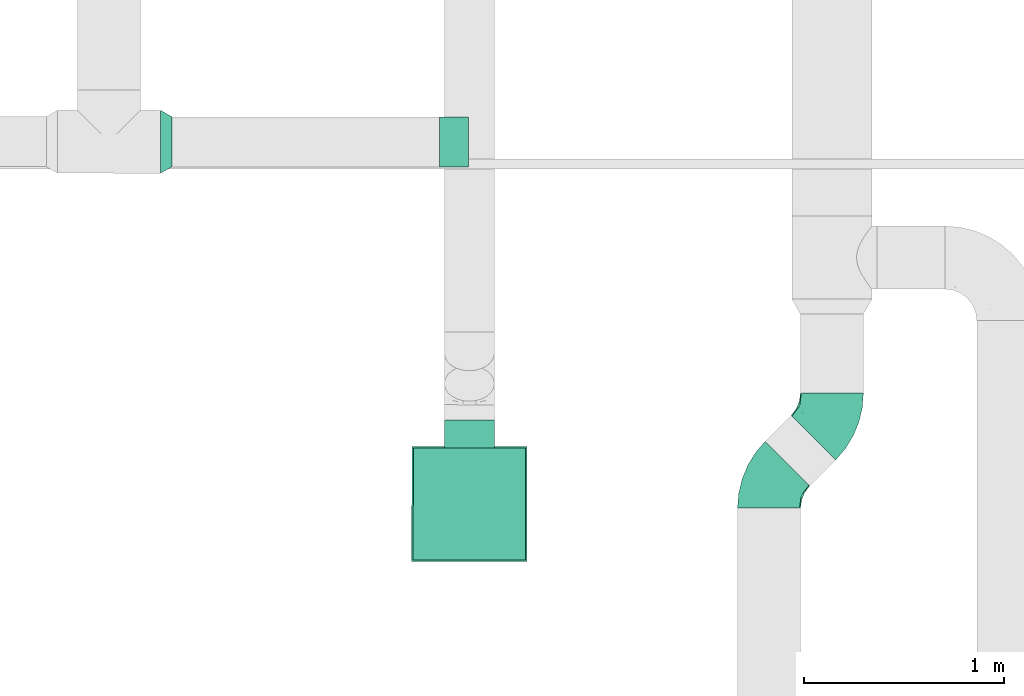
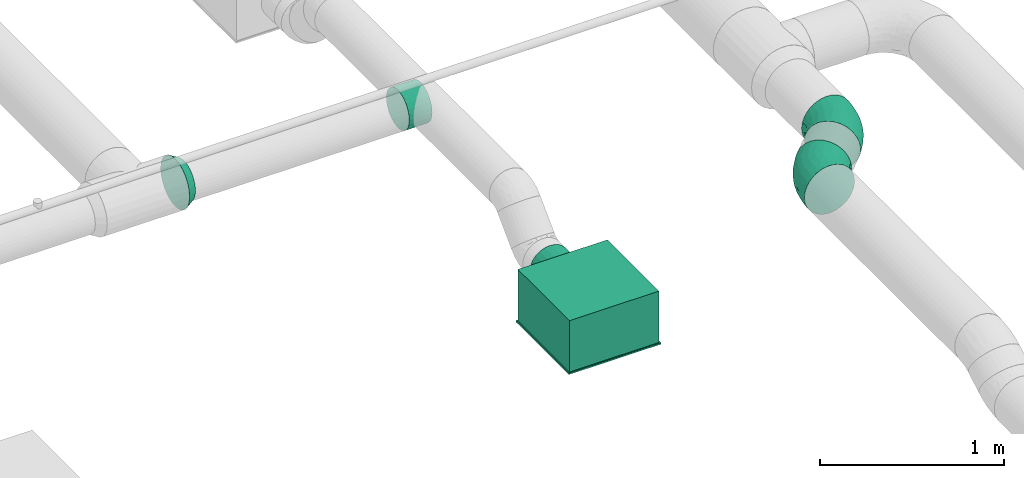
# One storey, part 21 of 63: 4 flow fittings, 1 flow terminal.
"""IFC2X3 building model written with IfcOpenShell, lengths in millimetres."""

from ifc_helpers import new_model, entity, si_unit, converted_unit, derived_unit, direction, frame, origin_with_axes, place, context, subcontext, project, spatial, open_shell, surface_model, source, transform, mapped, type_object, element, save


model = new_model("IFC2X3")

# Units and contexts
model_context = context("Model", 3, precision=0.01, world=frame((0.0, 4.29681676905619e-09, 0.0)), true_north=direction((4.01073788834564e-13, 1.0)))
plan_context = context("Plan", 3, precision=0.01, world=frame((0.0, 4.29681676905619e-09, 0.0)), true_north=direction((4.01073788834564e-13, 1.0)))
body_context = subcontext(model_context, "Body", "Model", "MODEL_VIEW")
ifc_project = project(units=[converted_unit("PLANEANGLEUNIT", "DEGREE", entity("IfcPositiveLengthMeasure", 0.0174532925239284), si_unit("PLANEANGLEUNIT", "RADIAN"), dimensions=[0, 0, 0, 0, 0, 0, 0]), si_unit("AREAUNIT", "SQUARE_METRE"), si_unit("LENGTHUNIT", "METRE", prefix="MILLI"), si_unit("MASSUNIT", "GRAM", prefix="KILO"), si_unit("POWERUNIT", "WATT"), si_unit("PRESSUREUNIT", "PASCAL"), si_unit("FORCEUNIT", "NEWTON", prefix="KILO"), si_unit("ELECTRICVOLTAGEUNIT", "VOLT"), si_unit("ELECTRICCURRENTUNIT", "AMPERE"), si_unit("THERMODYNAMICTEMPERATUREUNIT", "DEGREE_CELSIUS"), si_unit("TIMEUNIT", "SECOND"), si_unit("VOLUMEUNIT", "CUBIC_METRE"), derived_unit("LINEARVELOCITYUNIT", [(si_unit("LENGTHUNIT", "METRE"), 1), (si_unit("TIMEUNIT", "SECOND"), -1)]), derived_unit("VOLUMETRICFLOWRATEUNIT", [(si_unit("VOLUMEUNIT", "CUBIC_METRE"), 1), (si_unit("TIMEUNIT", "SECOND"), -1)]), derived_unit("THERMALTRANSMITTANCEUNIT", [(si_unit("POWERUNIT", "WATT"), 1), (si_unit("THERMODYNAMICTEMPERATUREUNIT", "KELVIN"), -1), (si_unit("AREAUNIT", "SQUARE_METRE"), -1)]), derived_unit("SOUNDPRESSUREUNIT", [(si_unit("PRESSUREUNIT", "PASCAL"), 1)])], contexts=[model_context, plan_context])

# Site, building, storey
site_placement = place(None, frame((0.0, -4.29681676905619e-09, 0.0), z_axis=(0.0, 0.0, 1.0), x_axis=(1.0, 0.0, 0.0)))
site = spatial("IfcSite", under=ifc_project, at=site_placement, CompositionType="ELEMENT")
building_placement = place(site_placement, frame((0.0, 4.29681676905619e-09, 0.0), z_axis=(0.0, 0.0, 1.0), x_axis=(1.0, 0.0, 0.0)))
building = spatial("IfcBuilding", under=site, at=building_placement, Name="mc-building", CompositionType="ELEMENT")
storey_placement = place(building_placement, frame((0.0, 0.0, 210900.0), z_axis=(0.0, 0.0, 1.0), x_axis=(1.0, 0.0, 0.0)))
storey = spatial("IfcBuildingStorey", under=building, at=storey_placement, Name="Nivå F", CompositionType="ELEMENT", Elevation=210900.0)

# Flow fittings
duct_fitting_type_1 = type_object("IfcDuctFittingType", Name="magicirc_reduction_001", PredefinedType="TRANSITION")
shared_shape_1 = source(origin_with_axes(), body_context, "Body", "SurfaceModel", [
    surface_model("IfcShellBasedSurfaceModel", [(0.0, 78.75, 136.39901), (0.0, 157.5, 0.0), (0.0, 40.764, 152.13332), (0.0, -78.75, 136.39901), (0.0, -152.13332, -40.764), (0.0, -111.36932, 111.36932), (0.0, -136.39901, 78.75), (0.0, -152.13332, 40.764), (0.0, -157.5, 0.0), (0.0, 152.13332, -40.764), (0.0, 136.39901, -78.75), (0.0, 0.0, -157.5), (0.0, 111.36932, -111.36932), (0.0, 78.75, -136.39901), (0.0, 40.764, -152.13332), (0.0, -136.39901, -78.75), (0.0, -78.75, -136.39901), (0.0, -111.36932, -111.36932), (0.0, -40.764, -152.13332), (0.0, 0.0, 157.5), (56.29165, 38.62713, 118.88206), (56.29165, -38.62713, 118.88206), (56.29165, -73.47315, 101.12712), (56.29165, -101.12712, 73.47315), (56.29165, -118.88206, 38.62713), (56.29165, -125.0, 0.0), (56.29165, 0.0, 125.0), (56.29165, 118.88206, -38.62713), (56.29165, 73.47315, 101.12712), (56.29165, 101.12712, 73.47315), (56.29165, 118.88206, 38.62713), (56.29165, -118.88206, -38.62713), (56.29165, -101.12712, -73.47315), (56.29165, 0.0, -125.0), (56.29165, -73.47315, -101.12712), (56.29165, -38.62713, -118.88206), (56.29165, 125.0, 0.0), (56.29165, 73.47315, -101.12712), (56.29165, 101.12712, -73.47315), (56.29165, 38.62713, -118.88206), (0.0, 136.39901, 78.75), (0.0, 111.36932, 111.36932), (0.0, -40.764, 152.13332), (0.0, 152.13332, 40.764)], [open_shell([[[0, 1, 2]], [[3, 4, 5]], [[6, 5, 4]], [[6, 4, 7]], [[7, 4, 8]], [[1, 9, 10]], [[11, 12, 13]], [[14, 11, 13]], [[15, 16, 17]], [[16, 11, 18]], [[1, 4, 19]], [[20, 21, 22]], [[23, 24, 25]], [[23, 25, 22]], [[20, 22, 25]], [[26, 21, 20]], [[20, 27, 28]], [[28, 27, 29]], [[27, 30, 29]], [[25, 27, 20]], [[31, 32, 33]], [[34, 35, 33]], [[34, 33, 32]], [[33, 27, 25]], [[30, 27, 36]], [[33, 37, 38]], [[38, 27, 33]], [[37, 33, 39]], [[25, 31, 33]], [[1, 19, 2]], [[40, 1, 41]], [[41, 1, 0]], [[5, 19, 4]], [[19, 5, 3]], [[3, 42, 19]], [[5, 4, 6]], [[8, 7, 4]], [[1, 40, 43]], [[1, 10, 14]], [[13, 14, 10]], [[13, 10, 12]], [[1, 14, 4]], [[14, 17, 15]], [[15, 4, 14]], [[14, 16, 17]], [[18, 16, 14]], [[11, 18, 14]], [[35, 34, 16]], [[33, 35, 18]], [[18, 11, 33]], [[16, 18, 35]], [[34, 17, 16]], [[31, 25, 4]], [[32, 31, 15]], [[15, 17, 32]], [[4, 15, 31]], [[25, 8, 4]], [[32, 17, 34]], [[27, 38, 10]], [[36, 27, 9]], [[9, 1, 36]], [[10, 9, 27]], [[38, 12, 10]], [[39, 33, 14]], [[37, 39, 13]], [[13, 12, 37]], [[14, 13, 39]], [[33, 11, 14]], [[37, 12, 38]], [[20, 28, 0]], [[26, 20, 2]], [[2, 19, 26]], [[0, 2, 20]], [[28, 41, 0]], [[30, 36, 43]], [[29, 30, 40]], [[40, 41, 29]], [[43, 40, 30]], [[36, 1, 43]], [[29, 41, 28]], [[24, 23, 6]], [[25, 24, 7]], [[7, 8, 25]], [[6, 7, 24]], [[23, 5, 6]], [[21, 26, 42]], [[22, 21, 3]], [[3, 5, 22]], [[42, 3, 21]], [[26, 19, 42]], [[22, 5, 23]], [[42, 19, 2]], [[0, 42, 2]], [[0, 41, 1]], [[0, 1, 42]], [[42, 4, 3]], [[11, 1, 9]], [[10, 11, 9]], [[12, 11, 10]], [[11, 15, 4]], [[11, 16, 15]], [[4, 1, 11]], [[1, 4, 42]], [[21, 22, 25]], [[21, 25, 26]], [[20, 26, 28]], [[26, 29, 28]], [[30, 29, 27]], [[27, 29, 26]], [[26, 25, 35]], [[31, 32, 34]], [[35, 27, 26]], [[35, 31, 34]], [[39, 35, 33]], [[35, 38, 27]], [[35, 37, 38]], [[39, 37, 35]], [[25, 31, 35]], [[25, 7, 8]], [[7, 24, 6]], [[19, 42, 26]], [[3, 21, 42]], [[26, 2, 19]], [[2, 20, 0]], [[1, 43, 36]], [[40, 30, 43]], [[36, 9, 1]], [[9, 27, 10]], [[11, 14, 33]], [[13, 39, 14]], [[33, 18, 11]], [[18, 35, 16]], [[8, 4, 25]], [[15, 31, 4]], [[26, 21, 22]], [[26, 23, 20]], [[23, 26, 22]], [[23, 27, 29]], [[28, 20, 29]], [[29, 36, 30]], [[29, 20, 23]], [[29, 27, 36]], [[23, 31, 27]], [[32, 34, 35]], [[27, 31, 32]], [[33, 32, 35]], [[38, 27, 37]], [[33, 37, 27]], [[27, 32, 33]], [[31, 23, 25]], [[41, 19, 2]], [[41, 2, 0]], [[19, 40, 4]], [[40, 19, 41]], [[7, 19, 4]], [[42, 5, 3]], [[42, 19, 5]], [[5, 7, 6]], [[19, 7, 5]], [[43, 10, 40]], [[9, 10, 43]], [[40, 10, 4]], [[4, 10, 13]], [[18, 13, 14]], [[4, 17, 15]], [[17, 4, 16]], [[13, 18, 16]], [[16, 4, 13]], [[43, 1, 9]], [[13, 37, 39]], [[38, 37, 12]], [[33, 14, 39]], [[27, 10, 9]], [[37, 13, 12]], [[11, 33, 18]], [[18, 33, 35]], [[34, 16, 35]], [[15, 32, 31]], [[17, 34, 32]], [[4, 31, 25]], [[17, 32, 15]], [[31, 4, 15]], [[3, 22, 21]], [[23, 22, 5]], [[26, 42, 21]], [[24, 6, 7]], [[22, 3, 5]], [[19, 26, 2]], [[2, 26, 20]], [[28, 0, 20]], [[40, 29, 30]], [[41, 28, 29]], [[43, 30, 36]], [[41, 29, 40]], [[30, 43, 40]]])]),
])
flow_fitting_1_placement = place(storey_placement, frame((525358.20022, 452593.68837, 4200.0), z_axis=(0.0, 0.0, 1.0), x_axis=(0.999999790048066, -0.000647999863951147, 0.0)))
element("IfcFlowFitting", 1, at=flow_fitting_1_placement, inside=storey, type_object=duct_fitting_type_1, Name="magicirc_reduction_001", context=body_context, shape_type="MappedRepresentation", body=[
    mapped(shared_shape_1, transform((0.0, 0.0, 0.0), scale=1.0)),
])
duct_fitting_type_2 = type_object("IfcDuctFittingType", Name="magicirc_tapoutlet_001", PredefinedType="CONNECTOR")
shared_shape_2 = source(origin_with_axes(), body_context, "Body", "SurfaceModel", [
    surface_model("IfcShellBasedSurfaceModel", [(-118.904, 88.38835, -88.38835), (-118.904, 120.74073, 32.35238), (-118.904, 108.25318, -62.5), (-118.904, -88.38835, -88.38835), (-118.904, -125.0, 0.0), (-118.904, -62.5, -108.25318), (-118.904, -120.74073, -32.35238), (-118.904, -108.25318, -62.5), (0.0, 125.0, 0.0), (0.0, 120.74073, -32.35238), (-118.904, 125.0, 0.0), (0.0, -120.74073, -32.35238), (0.0, -125.0, 0.0), (-118.904, -32.35238, -120.74073), (-118.904, 0.0, -125.0), (-118.904, 62.5, -108.25318), (-118.904, 32.35238, -120.74073), (-118.904, 120.74073, -32.35238), (-118.904, -120.74073, 32.35238), (-118.904, -108.25318, 62.5), (-118.904, -62.5, 108.25318), (-118.904, -32.35238, 120.74073), (-118.904, -88.38835, 88.38835), (-118.904, 62.5, 108.25318), (-118.904, 108.25318, 62.5), (-118.904, 88.38835, 88.38835), (-118.904, 32.35238, 120.74073), (-118.904, 0.0, 125.0), (0.0, -32.35238, 120.74073), (0.0, 0.0, 125.0), (0.0, -62.5, 108.25318), (0.0, -88.38835, 88.38835), (0.0, -120.74073, 32.35238), (0.0, -108.25318, 62.5), (0.0, -108.25318, -62.5), (0.0, -88.38835, -88.38835), (0.0, -32.35238, -120.74073), (0.0, -62.5, -108.25318), (0.0, 0.0, -125.0), (0.0, 32.35238, -120.74073), (0.0, 62.5, -108.25318), (0.0, 88.38835, -88.38835), (0.0, 108.25318, -62.5), (0.0, 120.74073, 32.35238), (0.0, 108.25318, 62.5), (0.0, 88.38835, 88.38835), (0.0, 32.35238, 120.74073), (0.0, 62.5, 108.25318), (25.0, -88.38835, -88.38835), (25.0, -120.74073, 32.35238), (25.0, -108.25318, -62.5), (25.0, 32.35238, -120.74073), (25.0, 0.0, -125.0), (25.0, 62.5, -108.25318), (25.0, -32.35238, -120.74073), (25.0, -62.5, -108.25318), (25.0, -125.0, 0.0), (25.0, -120.74073, -32.35238), (25.0, 88.38835, -88.38835), (25.0, 108.25318, -62.5), (25.0, 125.0, 0.0), (25.0, 120.74073, 32.35238), (25.0, 120.74073, -32.35238), (25.0, -108.25318, 62.5), (25.0, -62.5, 108.25318), (25.0, -32.35238, 120.74073), (25.0, -88.38835, 88.38835), (25.0, 0.0, 125.0), (25.0, 108.25318, 62.5), (25.0, 88.38835, 88.38835), (25.0, 32.35238, 120.74073), (25.0, 62.5, 108.25318)], [open_shell([[[0, 1, 2]], [[3, 4, 5]], [[6, 4, 7]], [[3, 7, 4]], [[8, 9, 10]], [[4, 11, 12]], [[13, 4, 14]], [[5, 4, 13]], [[0, 14, 1]], [[14, 15, 16]], [[14, 0, 15]], [[2, 1, 17]], [[2, 0, 1]], [[1, 10, 17]], [[4, 7, 6]], [[18, 19, 14]], [[14, 19, 20]], [[21, 14, 20]], [[20, 19, 22]], [[14, 21, 23]], [[14, 24, 1]], [[25, 24, 14]], [[25, 14, 23]], [[21, 26, 23]], [[21, 27, 26]], [[4, 18, 14]], [[28, 29, 21]], [[30, 28, 20]], [[21, 29, 27]], [[20, 28, 21]], [[20, 22, 30]], [[22, 31, 30]], [[32, 33, 18]], [[12, 32, 4]], [[22, 19, 31]], [[19, 33, 31]], [[18, 33, 19]], [[18, 4, 32]], [[7, 34, 11]], [[6, 11, 4]], [[34, 7, 3]], [[6, 7, 11]], [[3, 35, 34]], [[36, 37, 13]], [[38, 36, 14]], [[3, 5, 35]], [[5, 37, 35]], [[13, 37, 5]], [[13, 14, 36]], [[39, 38, 16]], [[40, 39, 15]], [[16, 38, 14]], [[15, 39, 16]], [[15, 0, 40]], [[0, 41, 40]], [[9, 42, 17]], [[0, 2, 41]], [[2, 42, 41]], [[17, 42, 2]], [[17, 10, 9]], [[43, 8, 1]], [[44, 43, 24]], [[1, 8, 10]], [[24, 43, 1]], [[24, 25, 44]], [[25, 45, 44]], [[46, 47, 26]], [[29, 46, 27]], [[25, 23, 45]], [[23, 47, 45]], [[26, 47, 23]], [[26, 27, 46]], [[7, 4, 3]], [[15, 16, 14]], [[19, 14, 18]], [[19, 22, 14]], [[14, 22, 20]], [[14, 23, 25]], [[27, 26, 21]], [[14, 4, 18]], [[48, 49, 50]], [[51, 52, 38]], [[53, 51, 39]], [[53, 39, 40]], [[38, 52, 54]], [[36, 54, 55]], [[37, 36, 55]], [[56, 57, 49]], [[58, 59, 60]], [[58, 60, 53]], [[52, 51, 54]], [[54, 49, 55]], [[55, 49, 48]], [[54, 60, 61]], [[54, 51, 53]], [[62, 60, 59]], [[53, 60, 54]], [[57, 50, 49]], [[63, 49, 54]], [[64, 63, 54]], [[64, 54, 65]], [[66, 63, 64]], [[67, 65, 54]], [[61, 68, 54]], [[68, 69, 54]], [[70, 67, 71]], [[69, 71, 67]], [[54, 69, 67]], [[65, 67, 29]], [[64, 65, 28]], [[28, 65, 29]], [[31, 66, 30]], [[64, 28, 30]], [[64, 30, 66]], [[49, 63, 33]], [[56, 49, 32]], [[33, 63, 31]], [[49, 33, 32]], [[56, 32, 12]], [[66, 31, 63]], [[57, 56, 12]], [[50, 57, 11]], [[11, 57, 12]], [[35, 48, 34]], [[50, 11, 34]], [[50, 34, 48]], [[37, 55, 35]], [[54, 36, 38]], [[48, 35, 55]], [[39, 51, 38]], [[41, 58, 40]], [[53, 40, 58]], [[62, 59, 42]], [[60, 62, 9]], [[42, 59, 41]], [[62, 42, 9]], [[60, 9, 8]], [[58, 41, 59]], [[61, 60, 8]], [[68, 61, 43]], [[43, 61, 8]], [[45, 69, 44]], [[68, 43, 44]], [[68, 44, 69]], [[70, 71, 47]], [[67, 70, 46]], [[47, 71, 45]], [[70, 47, 46]], [[67, 46, 29]], [[69, 45, 71]], [[66, 63, 54]], [[54, 65, 64]], [[64, 66, 54]], [[54, 69, 71]], [[67, 54, 71]]])]),
])
flow_fitting_2_placement = place(storey_placement, frame((526777.10326, 452592.76929, 4200.0), z_axis=(0.0, 0.0, -1.0), x_axis=(-0.999999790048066, 0.000647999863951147, 0.0)))
element("IfcFlowFitting", 2, at=flow_fitting_2_placement, inside=storey, type_object=duct_fitting_type_2, Name="magicirc_tapoutlet_001", context=body_context, shape_type="MappedRepresentation", body=[
    mapped(shared_shape_2, transform((0.0, 0.0, 0.0), scale=1.0)),
])
duct_fitting_type_3 = type_object("IfcDuctFittingType", Name="magicirc_elbow_full_radius_001", PredefinedType="BEND")
shared_shape_3 = source(origin_with_axes(), body_context, "Body", "SurfaceModel", [
    surface_model("IfcShellBasedSurfaceModel", [(-130.47727, 78.75, -136.39901), (-130.47727, 40.764, -152.13332), (-130.47727, 0.0, -157.5), (-130.47727, 136.39901, -78.75), (-130.47727, -40.764, -152.13332), (-130.47727, 111.36932, -111.36932), (-130.47727, -157.5, 0.0), (-130.47727, -152.13332, 40.764), (-130.47727, -111.36932, -111.36932), (-130.47727, -152.13332, -40.764), (-130.47727, -78.75, -136.39901), (-130.47727, -136.39901, -78.75), (-130.47727, 152.13332, -40.764), (-130.47727, 157.5, 0.0), (-130.47727, 152.13332, 40.764), (-130.47727, 136.39901, 78.75), (-130.47727, 111.36932, 111.36932), (-130.47727, 78.75, 136.39901), (-130.47727, 40.764, 152.13332), (-130.47727, -111.36932, 111.36932), (-130.47727, -78.75, 136.39901), (-130.47727, -136.39901, 78.75), (-130.47727, 0.0, 157.5), (-130.47727, -40.764, 152.13332), (92.26137, 92.26137, -157.5), (63.43686, 121.08587, -152.13332), (36.57671, 147.94602, -136.39901), (121.08587, 63.43686, -152.13332), (-4.18729, 188.71003, -78.75), (13.51136, 171.01136, -111.36932), (13.51136, 171.01136, 111.36932), (203.63068, -19.10795, 0.0), (171.01136, 13.51136, -111.36932), (147.94602, 36.57671, -136.39901), (199.83586, -15.31314, -40.764), (188.71003, -4.18729, -78.75), (-15.31314, 199.83586, -40.764), (-19.10795, 203.63068, 0.0), (-15.31314, 199.83586, 40.764), (-4.18729, 188.71003, 78.75), (199.83586, -15.31314, 40.764), (36.57671, 147.94602, 136.39901), (63.43686, 121.08587, 152.13332), (188.71003, -4.18729, 78.75), (147.94602, 36.57671, 136.39901), (171.01136, 13.51136, 111.36932), (92.26137, 92.26137, 157.5), (121.08587, 63.43686, 152.13332), (-90.31824, -62.89797, 143.44996), (-72.27875, -23.25773, 154.94979), (-56.56199, -151.68274, 0.0), (-70.62575, -144.42219, 53.02885), (-91.264, -154.41385, 0.0), (-89.63351, -126.15228, 91.7184), (-69.33391, -97.41309, 120.07653), (-16.38997, -97.78481, 109.44527), (-40.47078, -60.22037, 140.65724), (-39.28412, -122.29161, 86.38044), (152.5836, -25.82267, 91.71841), (-81.87175, 17.75633, 156.89351), (67.55449, 34.66309, 154.94979), (45.33645, 70.44769, 156.89351), (19.44546, -106.17047, 85.82993), (-9.83286, -133.58825, 49.47276), (46.24417, -111.64335, 57.07322), (101.41402, -87.50829, 49.47275), (152.06186, -52.18197, 53.02885), (114.25128, -58.69516, 86.38044), (-3.65855, 130.02911, 128.74157), (-83.53697, 125.9293, 101.78766), (-89.35748, 94.53145, 128.74157), (-72.45165, 58.76305, 148.57173), (-42.27491, 102.06066, 132.90326), (-34.80211, 144.57687, 102.52932), (71.19939, -13.96507, 140.65724), (20.14269, -6.20589, 152.39698), (-29.92035, 72.23411, 148.58687), (9.6793, 92.78281, 148.57173), (-66.76397, 161.18248, 52.45275), (-89.71327, 162.86668, 0.0), (-51.72727, 178.601, 0.0), (115.64225, -86.63056, 0.0), (49.78325, -120.1874, 0.0), (84.03324, -106.00058, 0.0), (66.8953, -111.32944, 29.0342), (66.95497, -86.10086, 85.82994), (108.34022, 19.38906, 143.44996), (21.01822, -47.55911, 136.8648), (32.83795, -79.27786, 110.97397), (80.23571, -55.72758, 111.31288), (-99.24246, 146.38754, 64.87357), (173.72046, -44.65369, 0.0), (117.90794, -19.85497, 120.07653), (-11.3948, 27.50947, 157.45362), (-66.77072, 146.456, 81.42725), (-35.48483, 168.38694, 71.56288), (-24.4967, -27.0546, 151.48903), (-44.47795, 2.85402, 157.2553), (29.43256, 33.46875, 157.2553), (26.71905, -127.11627, 31.92385), (-20.51436, -143.02847, 0.0), (147.25126, -67.26053, 0.0), (15.53326, -134.3742, 0.0), (-89.35749, 94.53145, -128.74157), (31.41968, -126.02392, -29.0342), (13.53818, -108.22682, -85.82992), (-17.32987, -96.14058, -111.31287), (32.83796, -79.27786, -110.97396), (108.34022, 19.38906, -143.44996), (67.55449, 34.66308, -154.94979), (-72.45166, 58.76305, -148.57173), (9.67929, 92.78279, -148.57174), (-81.87176, 17.75632, -156.89351), (-66.76398, 161.18248, -52.45275), (-93.97599, 144.15911, -71.56287), (-77.62248, 126.84009, -102.52932), (-42.27492, 102.06066, -132.90325), (-40.47078, -60.22037, -140.65723), (-72.27875, -23.25774, -154.94979), (-9.85481, -18.63127, -152.39698), (-70.62574, -144.42219, -53.02885), (-89.63351, -126.15228, -91.7184), (-29.92036, 72.23411, -148.58687), (-44.47795, 2.85401, -157.2553), (-69.33391, -97.41309, -120.07653), (46.24419, -111.64335, -57.07321), (61.32383, -88.82388, -85.82992), (-90.31824, -62.89797, -143.44996), (152.06185, -52.18197, -53.02885), (101.41403, -87.50828, -49.47276), (114.25129, -58.69516, -86.38043), (18.76725, -48.49151, -136.86479), (-56.34601, 150.77405, -81.42725), (117.90794, -19.85498, -120.07653), (71.19939, -13.96508, -140.65723), (-9.83285, -133.58825, -49.47276), (-39.28411, -122.29161, -86.38043), (-29.97591, 148.11501, -101.78766), (-33.33661, 173.68664, -64.87357), (-3.65856, 130.02911, -128.74157), (152.5836, -25.82267, -91.7184), (45.33645, 70.44768, -156.89351), (80.73375, -57.55486, -109.44526), (-11.3948, 27.50946, -157.45362), (36.45227, -1.80872, -151.48903), (29.43256, 33.46875, -157.2553), (70.99154, -108.778, -31.92385)], [open_shell([[[0, 1, 2]], [[3, 0, 2]], [[4, 3, 2]], [[5, 0, 3]], [[3, 6, 7]], [[8, 9, 10]], [[4, 10, 6]], [[11, 9, 8]], [[6, 10, 9]], [[6, 3, 4]], [[7, 12, 3]], [[13, 7, 14]], [[15, 14, 16]], [[17, 16, 7]], [[7, 16, 14]], [[7, 18, 17]], [[19, 20, 21]], [[7, 21, 22]], [[23, 22, 20]], [[21, 20, 22]], [[22, 18, 7]], [[12, 7, 13]], [[24, 25, 26]], [[27, 24, 26]], [[26, 28, 27]], [[28, 26, 29]], [[28, 30, 31]], [[27, 32, 33]], [[32, 27, 34]], [[32, 34, 35]], [[34, 27, 31]], [[27, 28, 31]], [[28, 36, 37]], [[28, 38, 30]], [[30, 38, 39]], [[40, 30, 41]], [[30, 40, 31]], [[41, 42, 43]], [[43, 44, 45]], [[43, 40, 41]], [[44, 46, 47]], [[46, 44, 43]], [[42, 46, 43]], [[38, 28, 37]], [[48, 49, 23]], [[50, 51, 52]], [[19, 21, 53]], [[54, 55, 56]], [[53, 51, 57]], [[45, 58, 43]], [[54, 20, 19]], [[59, 22, 49]], [[60, 46, 61]], [[19, 53, 54]], [[23, 20, 48]], [[62, 63, 64]], [[65, 66, 67]], [[41, 30, 68]], [[16, 69, 15]], [[70, 71, 72]], [[21, 7, 51]], [[69, 72, 73]], [[18, 22, 59]], [[74, 60, 75]], [[72, 76, 77]], [[14, 78, 79]], [[76, 72, 71]], [[79, 13, 14]], [[80, 78, 38]], [[46, 42, 61]], [[70, 16, 17]], [[66, 65, 81]], [[82, 83, 84]], [[64, 85, 62]], [[47, 86, 44]], [[23, 49, 22]], [[87, 74, 75]], [[86, 60, 74]], [[43, 66, 40]], [[88, 85, 89]], [[14, 15, 90]], [[66, 91, 40]], [[17, 18, 71]], [[44, 92, 45]], [[60, 47, 46]], [[66, 43, 58]], [[85, 88, 62]], [[51, 63, 57]], [[59, 93, 71]], [[79, 78, 80]], [[78, 94, 95]], [[37, 80, 38]], [[49, 96, 97]], [[38, 78, 95]], [[90, 69, 94]], [[39, 73, 30]], [[48, 54, 56]], [[68, 73, 72]], [[98, 60, 61]], [[77, 42, 41]], [[41, 68, 77]], [[55, 57, 62]], [[51, 7, 52]], [[92, 67, 58]], [[99, 63, 100]], [[60, 98, 75]], [[86, 92, 44]], [[74, 87, 89]], [[85, 65, 67]], [[71, 93, 76]], [[69, 16, 70]], [[90, 94, 78]], [[42, 77, 61]], [[93, 61, 77]], [[97, 59, 49]], [[71, 18, 59]], [[75, 93, 97]], [[87, 88, 89]], [[71, 70, 17]], [[69, 70, 72]], [[73, 68, 30]], [[77, 68, 72]], [[65, 83, 81]], [[99, 84, 64]], [[82, 84, 99]], [[84, 83, 65]], [[96, 87, 75]], [[55, 87, 56]], [[60, 86, 47]], [[92, 86, 74]], [[54, 48, 20]], [[49, 48, 56]], [[51, 53, 21]], [[54, 53, 57]], [[92, 58, 45]], [[66, 58, 67]], [[69, 90, 15]], [[78, 14, 90]], [[69, 73, 94]], [[95, 73, 39]], [[73, 95, 94]], [[38, 95, 39]], [[7, 6, 52]], [[91, 66, 101]], [[91, 31, 40]], [[93, 77, 76]], [[63, 99, 64]], [[101, 66, 81]], [[65, 64, 84]], [[51, 100, 63]], [[82, 99, 102]], [[65, 85, 64]], [[89, 67, 92]], [[67, 89, 85]], [[74, 89, 92]], [[55, 62, 88]], [[63, 62, 57]], [[55, 88, 87]], [[54, 57, 55]], [[61, 93, 98]], [[75, 98, 93]], [[49, 56, 96]], [[93, 59, 97]], [[87, 96, 56]], [[75, 97, 96]], [[100, 51, 50]], [[102, 99, 100]], [[103, 0, 5]], [[104, 82, 102]], [[105, 106, 107]], [[108, 109, 27]], [[0, 103, 110]], [[26, 25, 111]], [[13, 79, 12]], [[2, 1, 112]], [[12, 79, 113]], [[12, 113, 114]], [[115, 116, 103]], [[27, 109, 24]], [[117, 118, 119]], [[1, 0, 110]], [[120, 11, 121]], [[116, 122, 110]], [[120, 52, 9]], [[118, 123, 119]], [[124, 8, 10]], [[125, 105, 126]], [[127, 10, 4]], [[128, 129, 130]], [[117, 131, 106]], [[120, 9, 11]], [[118, 117, 127]], [[8, 121, 11]], [[113, 132, 114]], [[122, 116, 111]], [[79, 80, 113]], [[108, 133, 134]], [[80, 37, 36]], [[135, 120, 136]], [[29, 137, 28]], [[28, 138, 36]], [[118, 4, 2]], [[115, 137, 116]], [[139, 29, 26]], [[140, 32, 35]], [[112, 118, 2]], [[25, 24, 141]], [[3, 115, 5]], [[111, 116, 139]], [[35, 34, 128]], [[108, 27, 33]], [[133, 33, 32]], [[131, 117, 119]], [[138, 137, 132]], [[129, 125, 126]], [[10, 127, 124]], [[32, 140, 133]], [[130, 140, 128]], [[141, 24, 109]], [[128, 91, 101]], [[121, 124, 136]], [[123, 118, 112]], [[134, 133, 142]], [[120, 135, 100]], [[105, 107, 126]], [[141, 143, 111]], [[113, 80, 36]], [[142, 130, 126]], [[109, 144, 145]], [[128, 34, 91]], [[146, 129, 81]], [[105, 135, 136]], [[34, 31, 91]], [[137, 29, 139]], [[138, 132, 113]], [[1, 110, 112]], [[143, 112, 110]], [[145, 141, 109]], [[111, 25, 141]], [[119, 143, 145]], [[131, 107, 106]], [[115, 103, 5]], [[110, 103, 116]], [[111, 139, 26]], [[137, 139, 116]], [[135, 102, 100]], [[146, 104, 125]], [[82, 104, 146]], [[104, 102, 135]], [[144, 131, 119]], [[142, 131, 134]], [[118, 127, 4]], [[124, 127, 117]], [[133, 108, 33]], [[109, 108, 134]], [[128, 140, 35]], [[133, 140, 130]], [[124, 121, 8]], [[120, 121, 136]], [[137, 138, 28]], [[113, 36, 138]], [[137, 115, 132]], [[114, 115, 3]], [[115, 114, 132]], [[12, 114, 3]], [[52, 120, 50]], [[52, 6, 9]], [[111, 143, 122]], [[143, 110, 122]], [[104, 135, 125]], [[120, 100, 50]], [[125, 129, 146]], [[128, 81, 129]], [[82, 146, 83]], [[135, 105, 125]], [[106, 136, 124]], [[136, 106, 105]], [[117, 106, 124]], [[142, 126, 107]], [[129, 126, 130]], [[142, 107, 131]], [[133, 130, 142]], [[112, 143, 123]], [[119, 123, 143]], [[109, 134, 144]], [[143, 141, 145]], [[131, 144, 134]], [[119, 145, 144]], [[81, 128, 101]], [[83, 146, 81]]])]),
])
for number, where, z_axis, x_axis, name in (
    (3, (528713.30719, 451207.18542, 4200.0), (0.0, 0.0, 1.0), (0.707106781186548, 0.707106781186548, 0.0), "magicirc_elbow_full_radius_001"),
    (4, (528399.04312, 450892.92136, 4200.0), (0.0, 0.0, 1.0), (-0.707106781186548, -0.707106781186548, 0.0), "magicirc_elbow_full_radius_001"),
):
    element("IfcFlowFitting", number, at=place(storey_placement, frame(where, z_axis=z_axis, x_axis=x_axis)), inside=storey, type_object=duct_fitting_type_3, Name=name, context=body_context, shape_type="MappedRepresentation", body=[
        mapped(shared_shape_3, transform((0.0, 0.0, 0.0), scale=1.0)),
    ])

# Flow terminal
air_terminal_type = type_object("IfcAirTerminalType", Name="NS19-H-S-2-250 - 4-way", PredefinedType="NOTDEFINED")
shared_shape_4 = source(origin_with_axes(), body_context, "Body", "SurfaceModel", [
    surface_model("IfcShellBasedSurfaceModel", [(-287.5, 287.5, 0.0), (-287.5, -287.5, 0.0), (287.5, -287.5, 0.0), (287.5, 287.5, 0.0), (287.5, 287.5, -10.0), (287.5, -287.5, -10.0), (-287.5, -287.5, -10.0), (-287.5, 287.5, -10.0), (-280.0, 280.0, 340.0), (-280.0, -280.0, 340.0), (280.0, -280.0, 340.0), (280.0, 280.0, 340.0), (280.0, 280.0, 0.0), (280.0, -280.0, 0.0), (-280.0, -280.0, 0.0), (-280.0, 280.0, 0.0), (-280.0, 62.5, 81.74683), (-280.0, 88.38835, 101.61165), (-280.0, 62.4, 81.92003), (-280.0, 32.30062, 69.45246), (-280.0, 0.0, 65.2), (-280.0, 32.35238, 69.25927), (-280.0, 0.0, 65.0), (-280.0, 88.24693, 101.75307), (-280.0, 120.74073, 157.64763), (-280.0, 124.8, 189.99999), (-280.0, 120.54755, 157.69939), (-280.0, 125.0, 189.99999), (-280.0, 108.25318, 127.5), (-280.0, 108.07997, 127.6), (-280.0, -32.30062, 69.45246), (-280.0, -32.35238, 69.25927), (-280.0, -62.4, 81.92003), (-280.0, -88.38835, 101.61165), (-280.0, -62.5, 81.74683), (-280.0, -88.24693, 101.75307), (-280.0, -108.07997, 127.6), (-280.0, -108.25318, 127.5), (-280.0, -120.54755, 157.69939), (-280.0, -120.74073, 157.64763), (-280.0, -124.8, 189.99999), (-280.0, -125.0, 189.99999), (-280.0, 120.74073, 222.35238), (-280.0, 120.54755, 222.30062), (-280.0, 108.07997, 252.4), (-280.0, 108.25318, 252.49999), (-280.0, 88.24693, 278.24693), (-280.0, 88.38835, 278.38835), (-280.0, 62.5, 298.25318), (-280.0, 62.4, 298.07997), (-280.0, 32.30062, 310.54754), (-280.0, 32.35238, 310.74073), (-280.0, 0.0, 314.80001), (-280.0, 0.0, 315.0), (-280.0, -108.25318, 252.49999), (-280.0, -108.07997, 252.4), (-280.0, -88.38835, 278.38835), (-280.0, -88.24693, 278.24693), (-280.0, -120.74073, 222.35238), (-280.0, -120.54755, 222.30062), (-280.0, -32.30062, 310.54754), (-280.0, -32.35238, 310.74073), (-280.0, -62.4, 298.07997), (-280.0, -62.5, 298.25318), (-420.00002, 62.5, 298.25318), (-420.00002, 88.38835, 278.38835), (-420.00002, 62.4, 298.07997), (-420.00002, 32.30062, 310.54754), (-420.00002, 0.0, 314.80001), (-420.00002, 32.35238, 310.74073), (-420.00002, 0.0, 315.0), (-420.00002, 88.24693, 278.24693), (-420.00002, 120.74073, 222.35238), (-420.00002, 124.8, 189.99999), (-420.00002, 120.54755, 222.30062), (-420.00002, 125.0, 189.99999), (-420.00002, 108.25318, 252.49999), (-420.00002, 108.07997, 252.4), (-420.00002, -32.30062, 310.54754), (-420.00002, -32.35238, 310.74073), (-420.00002, -62.4, 298.07997), (-420.00002, -88.38835, 278.38835), (-420.00002, -62.5, 298.25318), (-420.00002, -88.24693, 278.24693), (-420.00002, -108.07997, 252.4), (-420.00002, -108.25318, 252.49999), (-420.00002, -120.54755, 222.30062), (-420.00002, -120.74073, 222.35238), (-420.00002, -124.8, 189.99999), (-420.00002, -125.0, 189.99999), (-420.00002, 120.74073, 157.64763), (-420.00002, 120.54755, 157.69939), (-420.00002, 108.07997, 127.6), (-420.00002, 108.25318, 127.5), (-420.00002, 88.24693, 101.75307), (-420.00002, 88.38835, 101.61165), (-420.00002, 62.5, 81.74683), (-420.00002, 62.4, 81.92003), (-420.00002, 32.30062, 69.45246), (-420.00002, 32.35238, 69.25927), (-420.00002, 0.0, 65.2), (-420.00002, 0.0, 65.0), (-420.00002, -108.25318, 127.5), (-420.00002, -108.07997, 127.6), (-420.00002, -88.38835, 101.61165), (-420.00002, -88.24693, 101.75307), (-420.00002, -120.74073, 157.64763), (-420.00002, -120.54755, 157.69939), (-420.00002, -32.30062, 69.45246), (-420.00002, -32.35238, 69.25927), (-420.00002, -62.4, 81.92003), (-420.00002, -62.5, 81.74683)], [open_shell([[[0, 1, 2]], [[2, 3, 0]], [[4, 5, 6]], [[6, 7, 4]], [[2, 1, 6]], [[6, 5, 2]], [[3, 2, 5]], [[5, 4, 3]], [[0, 3, 4]], [[4, 7, 0]], [[1, 0, 7]], [[7, 6, 1]], [[8, 9, 10]], [[10, 11, 8]], [[12, 13, 14]], [[14, 15, 12]], [[10, 9, 14]], [[14, 13, 10]], [[11, 10, 13]], [[13, 12, 11]], [[8, 11, 12]], [[12, 15, 8]], [[9, 8, 15]], [[15, 14, 9]], [[16, 17, 18]], [[16, 18, 19]], [[20, 21, 19]], [[21, 20, 22]], [[19, 21, 16]], [[18, 17, 23]], [[24, 25, 26]], [[25, 24, 27]], [[24, 26, 28]], [[23, 28, 29]], [[28, 23, 17]], [[29, 28, 26]], [[22, 30, 31]], [[31, 30, 32]], [[33, 34, 35]], [[32, 34, 31]], [[32, 35, 34]], [[22, 20, 30]], [[36, 37, 33]], [[37, 36, 38]], [[36, 33, 35]], [[39, 38, 40]], [[38, 39, 37]], [[39, 40, 41]], [[27, 42, 43]], [[43, 42, 44]], [[44, 45, 46]], [[45, 44, 42]], [[46, 45, 47]], [[47, 48, 49]], [[49, 48, 50]], [[50, 51, 52]], [[51, 50, 48]], [[52, 51, 53]], [[49, 46, 47]], [[54, 55, 56]], [[56, 55, 57]], [[55, 54, 58]], [[41, 59, 58]], [[58, 59, 55]], [[41, 40, 59]], [[60, 53, 61]], [[60, 61, 62]], [[57, 63, 56]], [[57, 62, 63]], [[63, 62, 61]], [[52, 53, 60]], [[43, 25, 27]], [[64, 65, 66]], [[64, 66, 67]], [[68, 69, 67]], [[69, 68, 70]], [[67, 69, 64]], [[66, 65, 71]], [[72, 73, 74]], [[73, 72, 75]], [[72, 74, 76]], [[71, 76, 77]], [[76, 71, 65]], [[77, 76, 74]], [[70, 78, 79]], [[79, 78, 80]], [[81, 82, 83]], [[80, 82, 79]], [[80, 83, 82]], [[70, 68, 78]], [[84, 85, 81]], [[85, 84, 86]], [[84, 81, 83]], [[87, 86, 88]], [[86, 87, 85]], [[87, 88, 89]], [[75, 90, 91]], [[91, 90, 92]], [[92, 93, 94]], [[93, 92, 90]], [[94, 93, 95]], [[95, 96, 97]], [[97, 96, 98]], [[98, 99, 100]], [[99, 98, 96]], [[100, 99, 101]], [[97, 94, 95]], [[102, 103, 104]], [[104, 103, 105]], [[103, 102, 106]], [[89, 107, 106]], [[106, 107, 103]], [[89, 88, 107]], [[108, 101, 109]], [[108, 109, 110]], [[105, 111, 104]], [[105, 110, 111]], [[111, 110, 109]], [[100, 101, 108]], [[91, 73, 75]], [[39, 106, 102]], [[104, 37, 102]], [[34, 111, 109]], [[104, 111, 33]], [[31, 109, 101]], [[106, 41, 89]], [[106, 39, 41]], [[102, 37, 39]], [[104, 33, 37]], [[34, 33, 111]], [[109, 31, 34]], [[101, 22, 31]], [[21, 99, 96]], [[95, 16, 96]], [[28, 93, 90]], [[95, 93, 17]], [[24, 90, 75]], [[99, 21, 22]], [[96, 16, 21]], [[95, 17, 16]], [[93, 28, 17]], [[24, 28, 90]], [[75, 27, 24]], [[99, 22, 101]], [[42, 75, 72]], [[45, 72, 76]], [[48, 64, 69]], [[51, 69, 70]], [[72, 45, 42]], [[42, 27, 75]], [[65, 47, 45]], [[47, 65, 48]], [[48, 65, 64]], [[69, 51, 48]], [[65, 45, 76]], [[70, 53, 51]], [[61, 79, 82]], [[81, 63, 82]], [[54, 85, 87]], [[81, 85, 56]], [[58, 87, 89]], [[79, 61, 53]], [[82, 63, 61]], [[81, 56, 63]], [[85, 54, 56]], [[58, 54, 87]], [[89, 41, 58]], [[79, 53, 70]], [[103, 107, 38]], [[103, 36, 105]], [[108, 110, 32]], [[35, 110, 105]], [[100, 108, 30]], [[88, 40, 107]], [[40, 38, 107]], [[38, 36, 103]], [[36, 35, 105]], [[110, 35, 32]], [[32, 30, 108]], [[30, 20, 100]], [[97, 98, 19]], [[97, 18, 94]], [[91, 92, 29]], [[23, 92, 94]], [[73, 91, 26]], [[20, 19, 98]], [[19, 18, 97]], [[18, 23, 94]], [[23, 29, 92]], [[91, 29, 26]], [[26, 25, 73]], [[100, 20, 98]], [[74, 73, 43]], [[77, 74, 44]], [[67, 66, 49]], [[68, 67, 50]], [[43, 44, 74]], [[73, 25, 43]], [[44, 46, 71]], [[49, 71, 46]], [[66, 71, 49]], [[49, 50, 67]], [[77, 44, 71]], [[50, 52, 68]], [[80, 78, 60]], [[80, 62, 83]], [[86, 84, 55]], [[57, 84, 83]], [[88, 86, 59]], [[52, 60, 78]], [[60, 62, 80]], [[62, 57, 83]], [[57, 55, 84]], [[86, 55, 59]], [[59, 40, 88]], [[68, 52, 78]]])]),
])
flow_terminal_placement = place(storey_placement, frame((526900.9314, 450783.59337, 3770.0), z_axis=(0.0, 0.0, 1.0), x_axis=(-0.000647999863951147, -0.999999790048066, 0.0)))
element("IfcFlowTerminal", 5, at=flow_terminal_placement, inside=storey, type_object=air_terminal_type, Name="NS19-H-S-2-250 - 4-way", context=body_context, shape_type="MappedRepresentation", body=[
    mapped(shared_shape_4, transform((0.0, 0.0, 0.0), scale=1.0)),
])

save(model, "model.ifc")
